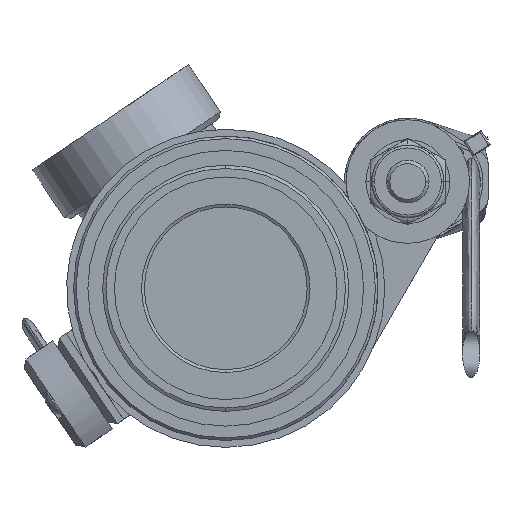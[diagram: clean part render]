
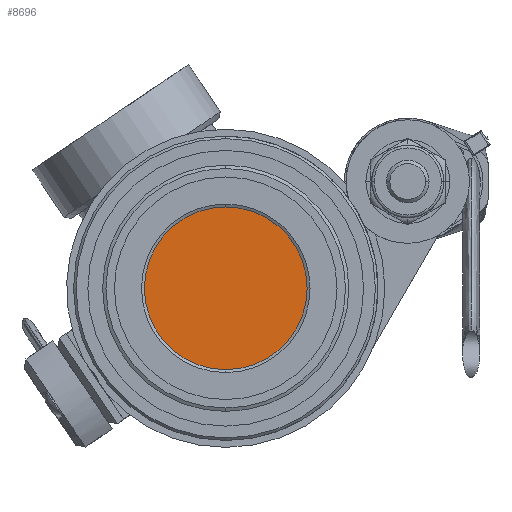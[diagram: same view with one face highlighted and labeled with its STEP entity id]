
A CAD part, front view. The second image highlights one B-rep face of the part: STEP entity #8696.
In plain terms, the highlighted planar face has unit normal (0, -1, 0).
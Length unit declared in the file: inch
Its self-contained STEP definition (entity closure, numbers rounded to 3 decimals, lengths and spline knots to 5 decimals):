
#241 = VERTEX_POINT ( 'NONE', #4972 ) ;
#329 = CARTESIAN_POINT ( 'NONE',  ( 0., -0.69643, 0. ) ) ;
#653 = VERTEX_POINT ( 'NONE', #1922 ) ;
#667 = CARTESIAN_POINT ( 'NONE',  ( -0.49213, -0.69643, 0. ) ) ;
#793 = EDGE_LOOP ( 'NONE', ( #1789, #1244 ) ) ;
#1167 = DIRECTION ( 'NONE',  ( 0., 0., -1. ) ) ;
#1172 = EDGE_CURVE ( 'NONE', #653, #241, #7296, .T. ) ;
#1244 = ORIENTED_EDGE ( 'NONE', *, *, #8109, .T. ) ;
#1789 = ORIENTED_EDGE ( 'NONE', *, *, #1172, .T. ) ;
#1922 = CARTESIAN_POINT ( 'NONE',  ( 0., -0.69643, 0.49213 ) ) ;
#2294 = DIRECTION ( 'NONE',  ( 0., 0., 1. ) ) ;
#2381 = CARTESIAN_POINT ( 'NONE',  ( 0., -0.69643, 0. ) ) ;
#3620 = DIRECTION ( 'NONE',  ( 0., -1., 0. ) ) ;
#3812 = AXIS2_PLACEMENT_3D ( 'NONE', #2381, #7923, #8725 ) ;
#4972 = CARTESIAN_POINT ( 'NONE',  ( 0., -0.69643, -0.49213 ) ) ;
#6027 = FACE_OUTER_BOUND ( 'NONE', #793, .T. ) ;
#6183 = AXIS2_PLACEMENT_3D ( 'NONE', #329, #3620, #1167 ) ;
#6243 = DIRECTION ( 'NONE',  ( 0., 1., 0. ) ) ;
#6272 = AXIS2_PLACEMENT_3D ( 'NONE', #667, #6243, #2294 ) ;
#7296 = CIRCLE ( 'NONE', #6183, 0.49213 ) ;
#7923 = DIRECTION ( 'NONE',  ( 0., -1., 0. ) ) ;
#8109 = EDGE_CURVE ( 'NONE', #241, #653, #9149, .T. ) ;
#8696 = ADVANCED_FACE ( 'NONE', ( #6027 ), #10285, .F. ) ;
#8725 = DIRECTION ( 'NONE',  ( 0., 0., -1. ) ) ;
#9149 = CIRCLE ( 'NONE', #3812, 0.49213 ) ;
#10285 = PLANE ( 'NONE',  #6272 ) ;
